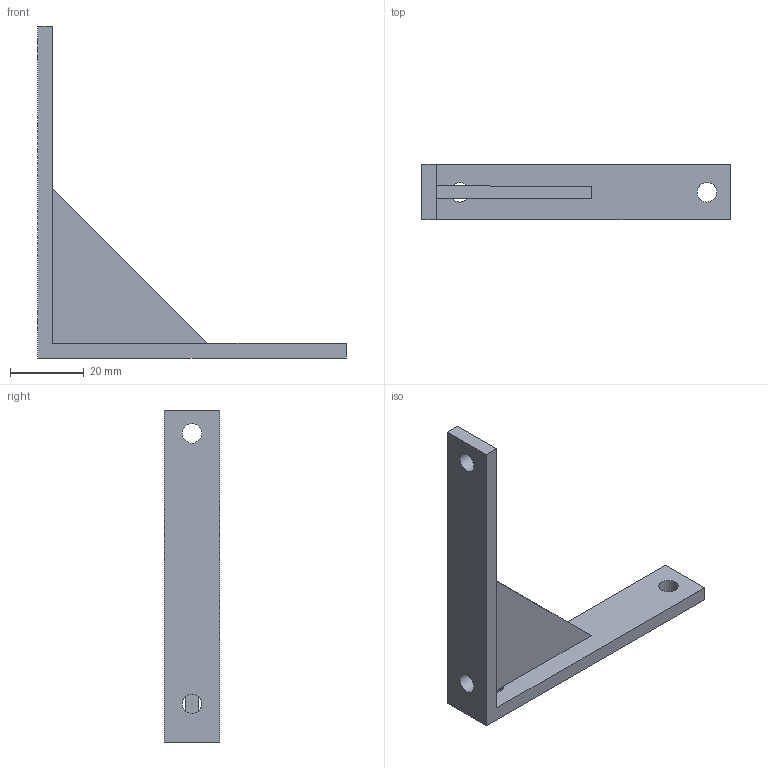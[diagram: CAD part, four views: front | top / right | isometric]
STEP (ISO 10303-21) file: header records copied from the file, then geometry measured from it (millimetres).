
FILE_DESCRIPTION(('Mechanical CAD reference from nasji.com'),'2;1');
FILE_NAME('NASJI.step','',(''),(''),'','NASJI distribution','');
FILE_SCHEMA(('AUTOMOTIVE_DESIGN { 1 0 10303 214 1 1 1 1 }'));
Length unit declared in the file: millimetre
Products named in the file (1): Open CASCADE STEP translator 7.8 159
Bounding box: 83.68 x 15 x 90 mm (x, y, z)
Volume: 12741.7 mm3; surface area: 8407.7 mm2
Topology: 1 solids, 1 shells, 17 faces, 55 edges, 34 vertices
Faces by surface type: plane 13, cylinder 4
Full cylindrical faces by diameter (mm): 5.3 x4
Entity records: 1367 total; most frequent: CARTESIAN_POINT 263, DIRECTION 206, LINE 129, VECTOR 129, ORIENTED_EDGE 110, PCURVE 110, DEFINITIONAL_REPRESENTATION 110, EDGE_CURVE 55
